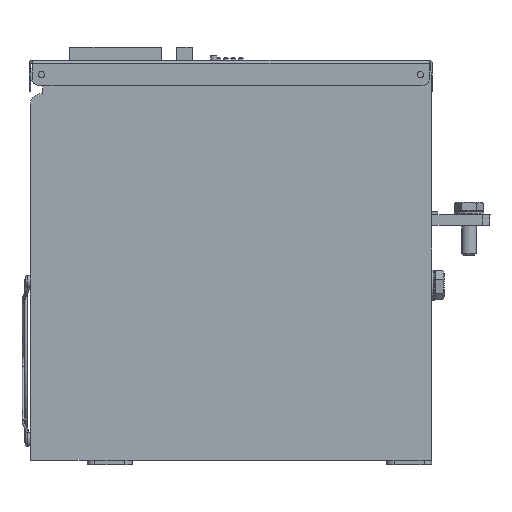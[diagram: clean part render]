
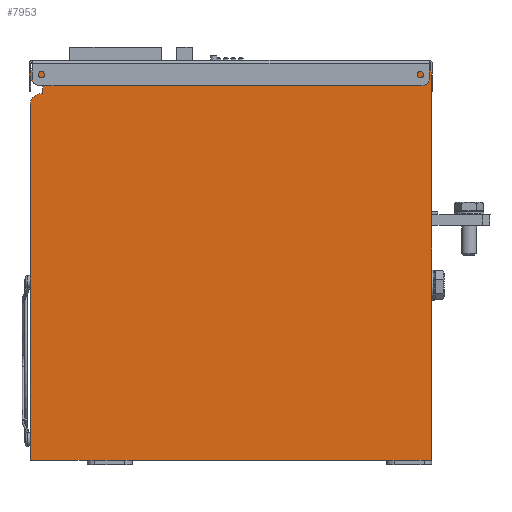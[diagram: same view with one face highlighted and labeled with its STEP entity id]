
A CAD part, left-side view. The second image highlights one B-rep face of the part: STEP entity #7953.
In plain terms, the highlighted planar face has unit normal (-1, 0, 0).
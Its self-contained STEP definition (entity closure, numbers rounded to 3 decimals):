
#7953=ADVANCED_FACE('',(#40557),#40559,.F.);
#40557=FACE_BOUND('',#40558,.T.);
#40558=EDGE_LOOP('',(#71392,#71393,#71394,#71395,#71396,#71397,#71398,#71399,#71400,
#71401,#71402));
#40559=PLANE('',#40560);
#40560=AXIS2_PLACEMENT_3D('',#40561,#40562,#40563);
#40561=CARTESIAN_POINT('',(-59.852,12.642,60.711));
#40562=DIRECTION('',(1.,0.,0.));
#40563=DIRECTION('',(0.,1.,0.));
#71392=ORIENTED_EDGE('',*,*,#96142,.F.);
#71393=ORIENTED_EDGE('',*,*,#95650,.F.);
#71394=ORIENTED_EDGE('',*,*,#95971,.T.);
#71395=ORIENTED_EDGE('',*,*,#95969,.T.);
#71396=ORIENTED_EDGE('',*,*,#95967,.F.);
#71397=ORIENTED_EDGE('',*,*,#95965,.T.);
#71398=ORIENTED_EDGE('',*,*,#95963,.T.);
#71399=ORIENTED_EDGE('',*,*,#95961,.F.);
#71400=ORIENTED_EDGE('',*,*,#95959,.T.);
#71401=ORIENTED_EDGE('',*,*,#96143,.F.);
#71402=ORIENTED_EDGE('',*,*,#95956,.T.);
#95650=EDGE_CURVE('',#108412,#108414,#108415,.T.);
#95956=EDGE_CURVE('',#108781,#108429,#108782,.T.);
#95959=EDGE_CURVE('',#108785,#108502,#108786,.T.);
#95961=EDGE_CURVE('',#108785,#108788,#108789,.T.);
#95963=EDGE_CURVE('',#108791,#108788,#108792,.T.);
#95965=EDGE_CURVE('',#108794,#108791,#108795,.T.);
#95967=EDGE_CURVE('',#108794,#108797,#108798,.T.);
#95969=EDGE_CURVE('',#108800,#108797,#108801,.T.);
#95971=EDGE_CURVE('',#108412,#108800,#108803,.T.);
#96142=EDGE_CURVE('',#108414,#108429,#109011,.T.);
#96143=EDGE_CURVE('',#108781,#108502,#109012,.T.);
#108412=VERTEX_POINT('',#132194);
#108414=VERTEX_POINT('',#132198);
#108415=LINE('',#132199,#132200);
#108429=VERTEX_POINT('',#132229);
#108502=VERTEX_POINT('',#132420);
#108781=VERTEX_POINT('',#133226);
#108782=LINE('',#133227,#133228);
#108785=VERTEX_POINT('',#133236);
#108786=LINE('',#133237,#133238);
#108788=VERTEX_POINT('',#133243);
#108789=LINE('',#133244,#133245);
#108791=VERTEX_POINT('',#133250);
#108792=CIRCLE('',#133251,7.5);
#108794=VERTEX_POINT('',#133258);
#108795=LINE('',#133259,#133260);
#108797=VERTEX_POINT('',#133265);
#108798=CIRCLE('',#133266,7.5);
#108800=VERTEX_POINT('',#133273);
#108801=LINE('',#133274,#133275);
#108803=CIRCLE('',#133280,7.5);
#109011=LINE('',#134056,#134057);
#109012=LINE('',#134059,#134060);
#132194=CARTESIAN_POINT('',(-59.852,-121.358,200.711));
#132198=CARTESIAN_POINT('',(-59.852,-121.358,-56.789));
#132199=CARTESIAN_POINT('',(-59.852,-121.358,200.711));
#132200=VECTOR('',#132201,1.);
#132201=DIRECTION('',(0.,0.,-1.));
#132229=CARTESIAN_POINT('',(-59.852,-91.358,-56.789));
#132420=CARTESIAN_POINT('',(-59.852,108.642,-56.789));
#133226=CARTESIAN_POINT('',(-59.852,78.642,-56.789));
#133227=CARTESIAN_POINT('',(-59.852,78.642,-56.789));
#133228=VECTOR('',#133229,1.);
#133229=DIRECTION('',(0.,-1.,0.));
#133236=CARTESIAN_POINT('',(-59.852,146.642,-56.789));
#133237=CARTESIAN_POINT('',(-59.852,146.642,-56.789));
#133238=VECTOR('',#133239,1.);
#133239=DIRECTION('',(0.,-1.,0.));
#133243=CARTESIAN_POINT('',(-59.852,146.642,180.711));
#133244=CARTESIAN_POINT('',(-59.852,146.642,-56.789));
#133245=VECTOR('',#133246,1.);
#133246=DIRECTION('',(0.,0.,1.));
#133250=CARTESIAN_POINT('',(-59.852,138.142,188.144));
#133251=AXIS2_PLACEMENT_3D('',#133252,#133253,#133254);
#133252=CARTESIAN_POINT('',(-59.852,139.142,180.711));
#133253=DIRECTION('',(-1.,0.,0.));
#133254=DIRECTION('',(0.,-0.133,0.991));
#133258=CARTESIAN_POINT('',(-59.852,138.142,193.278));
#133259=CARTESIAN_POINT('',(-59.852,138.142,193.278));
#133260=VECTOR('',#133261,1.);
#133261=DIRECTION('',(0.,0.,-1.));
#133265=CARTESIAN_POINT('',(-59.852,139.142,208.211));
#133266=AXIS2_PLACEMENT_3D('',#133267,#133268,#133269);
#133267=CARTESIAN_POINT('',(-59.852,139.142,200.711));
#133268=DIRECTION('',(1.,0.,0.));
#133269=DIRECTION('',(0.,-0.133,-0.991));
#133273=CARTESIAN_POINT('',(-59.852,-113.858,208.211));
#133274=CARTESIAN_POINT('',(-59.852,-113.858,208.211));
#133275=VECTOR('',#133276,1.);
#133276=DIRECTION('',(0.,1.,0.));
#133280=AXIS2_PLACEMENT_3D('',#133281,#133282,#133283);
#133281=CARTESIAN_POINT('',(-59.852,-113.858,200.711));
#133282=DIRECTION('',(-1.,0.,0.));
#133283=DIRECTION('',(0.,-1.,0.));
#134056=CARTESIAN_POINT('',(-59.852,-121.358,-56.789));
#134057=VECTOR('',#134058,1.);
#134058=DIRECTION('',(0.,1.,0.));
#134059=CARTESIAN_POINT('',(-59.852,78.642,-56.789));
#134060=VECTOR('',#134061,1.);
#134061=DIRECTION('',(0.,1.,0.));
